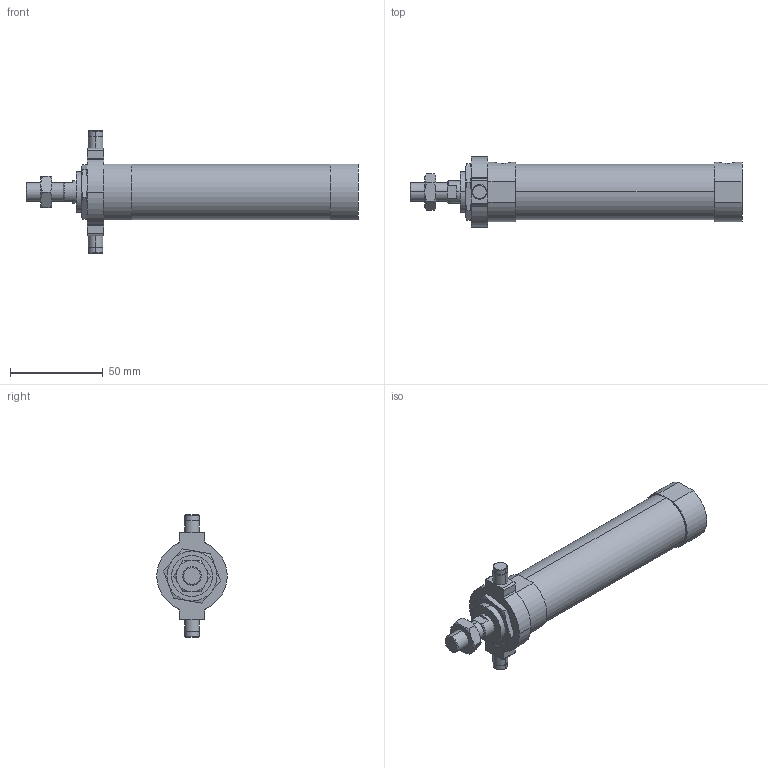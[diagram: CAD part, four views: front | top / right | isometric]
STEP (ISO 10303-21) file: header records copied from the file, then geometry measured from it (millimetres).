
FILE_DESCRIPTION (( 'STEP AP203' ), '1' );
FILE_NAME ('JGND2-25-75-T.STEP', '2016-08-04T02:38:56', ( '' ), ( '' ), 'SwSTEP 2.0', 'SolidWorks 2014', '' );
FILE_SCHEMA (( 'CONFIG_CONTROL_DESIGN' ));
Length unit declared in the file: millimetre
Products named in the file (5): J#2-25-75(P); J#2-25-T; JGND2-25-75-T
Assembly tree (4 placements, depth 2):
  JGND2-25-75-T
    J#2-25-75(P)
    (unnamed)
    J#2-25-T
    (unnamed)
Bounding box: 179 x 38 x 66 mm (x, y, z)
Volume: 115323.1 mm3; surface area: 23997.2 mm2
Topology: 4 solids, 4 shells, 128 faces, 291 edges, 174 vertices
Faces by surface type: plane 45, cylinder 43, torus 24, cone 16
Entity records: 4380 total; most frequent: CARTESIAN_POINT 1020, DIRECTION 619, ORIENTED_EDGE 574, EDGE_CURVE 287, AXIS2_PLACEMENT_3D 253, VERTEX_POINT 174, EDGE_LOOP 141, ADVANCED_FACE 128
